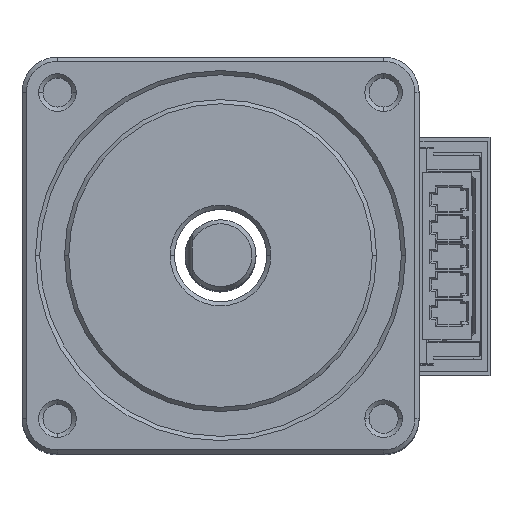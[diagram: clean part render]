
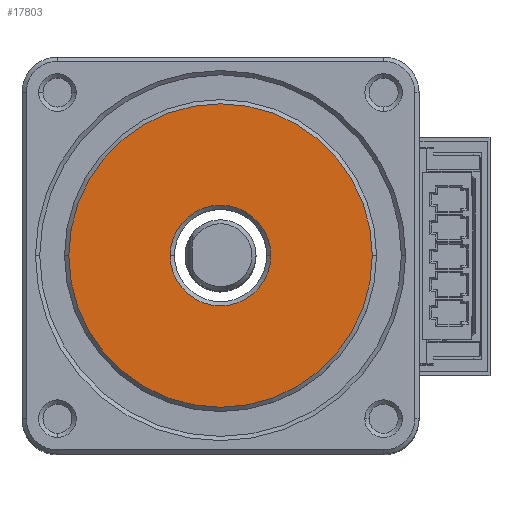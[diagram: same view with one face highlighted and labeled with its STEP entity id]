
A CAD part, top view. The second image highlights one B-rep face of the part: STEP entity #17803.
In plain terms, the highlighted planar face has unit normal (0, 0, 1).
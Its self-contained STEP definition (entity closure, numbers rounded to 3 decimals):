
#4002=CARTESIAN_POINT('',(0.,0.,10.));
#4003=DIRECTION('',(0.,0.,1.));
#4004=DIRECTION('',(-1.,0.,0.));
#4005=AXIS2_PLACEMENT_3D('',#4002,#4003,#4004);
#4007=CARTESIAN_POINT('',(0.,0.,10.));
#4008=DIRECTION('',(0.,0.,1.));
#4009=DIRECTION('',(1.,0.,0.));
#4010=AXIS2_PLACEMENT_3D('',#4007,#4008,#4009);
#4012=CARTESIAN_POINT('',(0.,0.,10.));
#4013=DIRECTION('',(0.,0.,-1.));
#4014=DIRECTION('',(1.,0.,0.));
#4015=AXIS2_PLACEMENT_3D('',#4012,#4013,#4014);
#4017=CARTESIAN_POINT('',(0.,0.,10.));
#4018=DIRECTION('',(0.,0.,-1.));
#4019=DIRECTION('',(-1.,0.,0.));
#4020=AXIS2_PLACEMENT_3D('',#4017,#4018,#4019);
#9776=CARTESIAN_POINT('',(-10.7,0.,10.));
#9777=CARTESIAN_POINT('',(10.7,0.,10.));
#9778=VERTEX_POINT('',#9776);
#9779=VERTEX_POINT('',#9777);
#9784=CARTESIAN_POINT('',(3.55,0.,10.));
#9785=CARTESIAN_POINT('',(-3.55,0.,10.));
#9786=VERTEX_POINT('',#9784);
#9787=VERTEX_POINT('',#9785);
#17787=CARTESIAN_POINT('',(0.,0.,10.));
#17788=DIRECTION('',(0.,0.,1.));
#17789=DIRECTION('',(1.,0.,0.));
#17790=AXIS2_PLACEMENT_3D('',#17787,#17788,#17789);
#17791=PLANE('',#17790);
#17792=ORIENTED_EDGE('',*,*,#17777,.F.);
#17794=ORIENTED_EDGE('',*,*,#17793,.F.);
#17795=EDGE_LOOP('',(#17792,#17794));
#17796=FACE_OUTER_BOUND('',#17795,.F.);
#17798=ORIENTED_EDGE('',*,*,#17797,.F.);
#17800=ORIENTED_EDGE('',*,*,#17799,.F.);
#17801=EDGE_LOOP('',(#17798,#17800));
#17802=FACE_BOUND('',#17801,.F.);
#17803=ADVANCED_FACE('',(#17796,#17802),#17791,.T.);
#4006=CIRCLE('',#4005,10.7);
#4011=CIRCLE('',#4010,10.7);
#4016=CIRCLE('',#4015,3.55);
#4021=CIRCLE('',#4020,3.55);
#17777=EDGE_CURVE('',#9778,#9779,#4006,.T.);
#17793=EDGE_CURVE('',#9779,#9778,#4011,.T.);
#17797=EDGE_CURVE('',#9786,#9787,#4016,.T.);
#17799=EDGE_CURVE('',#9787,#9786,#4021,.T.);
